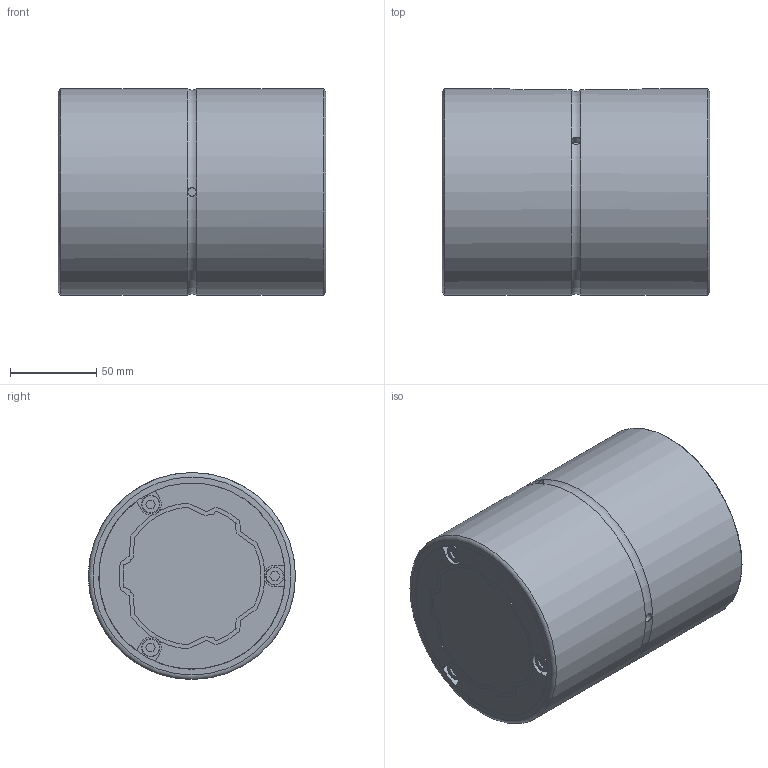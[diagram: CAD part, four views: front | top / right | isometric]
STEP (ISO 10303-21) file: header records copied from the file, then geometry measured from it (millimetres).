
FILE_DESCRIPTION(/* description */ ('STEP AP203'),/* implementation_level */ '2;1');
FILE_NAME(/* name */ 'SLS80L1155(00)',/* time_stamp */ '2024-05-23T11:47:31+02:00',/* author */ ('License CC BY-ND 4.0'),/* organization */ ('CADENAS'),/* preprocessor_version */ 'ST-DEVELOPER v19.3',/* originating_system */ 'PARTsolutions',/* authorisation */ ' ');
FILE_SCHEMA (('CONFIG_CONTROL_DESIGN'));
Length unit declared in the file: millimetre
Products named in the file (3): SLS80L1155(00); 80(L155); 80L cylinder
Assembly tree (2 placements, depth 2):
  SLS80L1155(00)
    80(L155)
    80L cylinder
Bounding box: 155 x 120 x 120 mm (x, y, z)
Volume: 1737562.4 mm3; surface area: 164767.7 mm2
Topology: 2 solids, 2 shells, 252 faces, 688 edges, 457 vertices
Faces by surface type: plane 144, cylinder 99, torus 9
Full cylindrical faces by diameter (mm): 5 x3, 10.5 x6, 108 x2, 120 x2
Entity records: 7987 total; most frequent: CARTESIAN_POINT 1440, DIRECTION 1386, ORIENTED_EDGE 1320, EDGE_CURVE 660, AXIS2_PLACEMENT_3D 478, VERTEX_POINT 450, LINE 430, VECTOR 430
